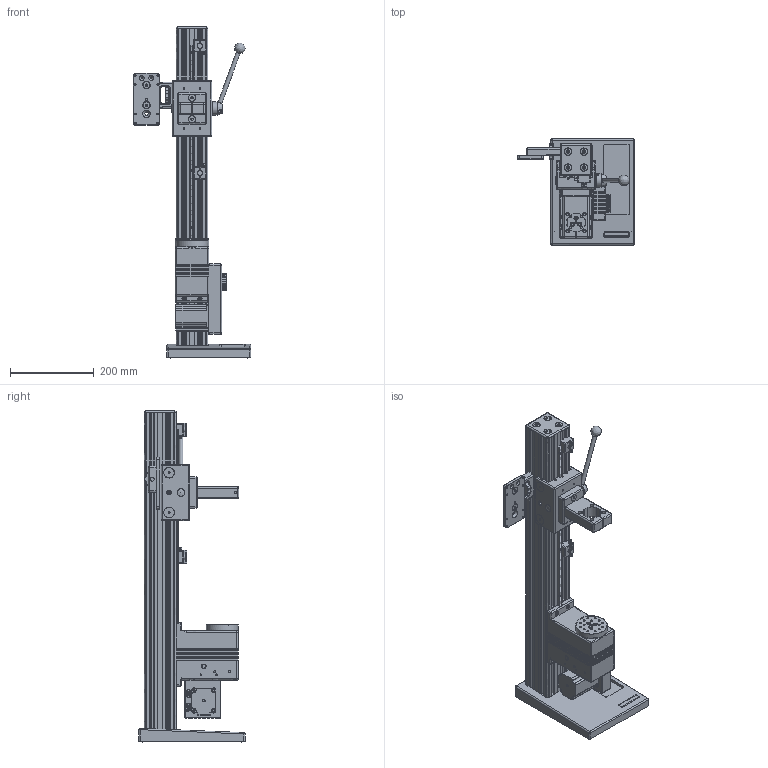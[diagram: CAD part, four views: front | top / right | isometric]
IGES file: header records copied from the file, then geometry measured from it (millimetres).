
Global section: file name: TSTM MARKETING MODEL; native system: AutoCAD Mechanical 2020 - English; preprocessor: Autodesk Translation Framework DWG producer (atf_dwg_producer); organization: unknown; date: 20230207.094306; units: inch
Bounding box: 280.8 x 254 x 794.72 mm (x, y, z)
Volume: 6005966.4 mm3; surface area: 1165464.9 mm2
Topology: 14 solids, 17 shells, 3547 faces, 9660 edges, 6263 vertices
Faces by surface type: bspline 3547
